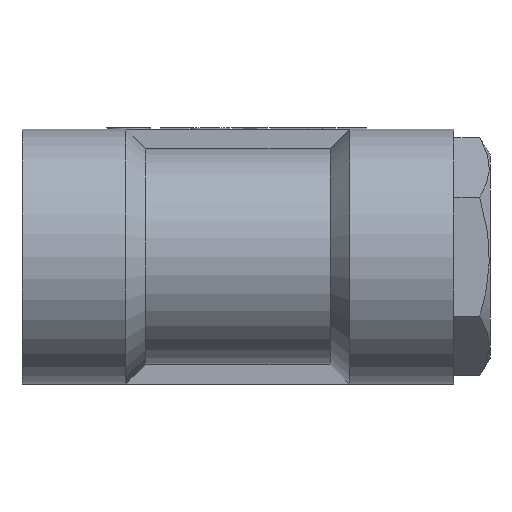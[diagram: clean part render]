
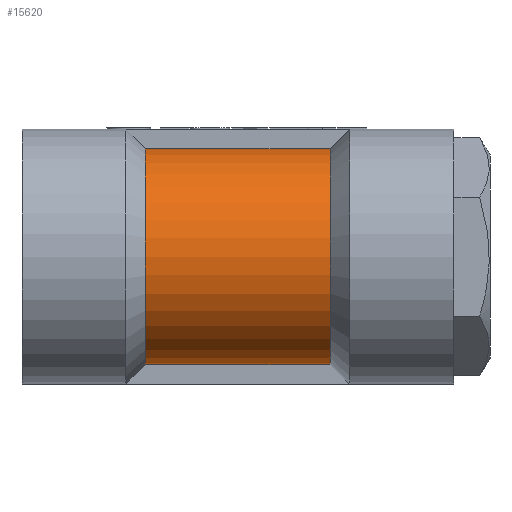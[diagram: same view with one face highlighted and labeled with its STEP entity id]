
A CAD part, front view. The second image highlights one B-rep face of the part: STEP entity #15620.
In plain terms, the highlighted cylindrical face has radius 11 mm (diameter 22 mm), a partial arc.
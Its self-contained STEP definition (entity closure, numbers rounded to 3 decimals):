
#337 = CARTESIAN_POINT ( 'NONE',  ( -26., 0., 0. ) ) ;
#892 = ORIENTED_EDGE ( 'NONE', *, *, #10044, .T. ) ;
#1348 = EDGE_CURVE ( 'NONE', #17302, #3374, #12690, .T. ) ;
#2077 = VECTOR ( 'NONE', #19059, 1000. ) ;
#2328 = CARTESIAN_POINT ( 'NONE',  ( 5.422, 0., 0. ) ) ;
#2959 = ORIENTED_EDGE ( 'NONE', *, *, #16863, .F. ) ;
#3374 = VERTEX_POINT ( 'NONE', #9672 ) ;
#4568 = VECTOR ( 'NONE', #15306, 1000. ) ;
#5521 = CARTESIAN_POINT ( 'NONE',  ( -13.423, 0., -11. ) ) ;
#5681 = DIRECTION ( 'NONE',  ( -1., 0., 0. ) ) ;
#7096 = VERTEX_POINT ( 'NONE', #16218 ) ;
#7192 = CARTESIAN_POINT ( 'NONE',  ( -26., 0., -11. ) ) ;
#9672 = CARTESIAN_POINT ( 'NONE',  ( 5.422, 0., 11. ) ) ;
#10044 = EDGE_CURVE ( 'NONE', #7096, #10413, #12224, .T. ) ;
#10403 = LINE ( 'NONE', #11081, #4568 ) ;
#10413 = VERTEX_POINT ( 'NONE', #5521 ) ;
#11081 = CARTESIAN_POINT ( 'NONE',  ( -26., 0., 11. ) ) ;
#11727 = DIRECTION ( 'NONE',  ( -1., 0., 0. ) ) ;
#11781 = AXIS2_PLACEMENT_3D ( 'NONE', #2328, #5681, #15445 ) ;
#11908 = EDGE_CURVE ( 'NONE', #7096, #3374, #10403, .T. ) ;
#11968 = ORIENTED_EDGE ( 'NONE', *, *, #11908, .F. ) ;
#12224 = CIRCLE ( 'NONE', #16758, 11. ) ;
#12690 = CIRCLE ( 'NONE', #11781, 11. ) ;
#13373 = EDGE_LOOP ( 'NONE', ( #2959, #16128, #11968, #892 ) ) ;
#13814 = CYLINDRICAL_SURFACE ( 'NONE', #16029, 11. ) ;
#15306 = DIRECTION ( 'NONE',  ( 1., 0., 0. ) ) ;
#15445 = DIRECTION ( 'NONE',  ( 0., 0., -1. ) ) ;
#15620 = ADVANCED_FACE ( 'NONE', ( #18114 ), #13814, .T. ) ;
#16029 = AXIS2_PLACEMENT_3D ( 'NONE', #337, #11727, #19912 ) ;
#16128 = ORIENTED_EDGE ( 'NONE', *, *, #1348, .T. ) ;
#16218 = CARTESIAN_POINT ( 'NONE',  ( -13.423, 0., 11. ) ) ;
#16758 = AXIS2_PLACEMENT_3D ( 'NONE', #20476, #20202, #18778 ) ;
#16863 = EDGE_CURVE ( 'NONE', #17302, #10413, #18336, .T. ) ;
#17302 = VERTEX_POINT ( 'NONE', #18685 ) ;
#18114 = FACE_OUTER_BOUND ( 'NONE', #13373, .T. ) ;
#18336 = LINE ( 'NONE', #7192, #2077 ) ;
#18685 = CARTESIAN_POINT ( 'NONE',  ( 5.422, 0., -11. ) ) ;
#18778 = DIRECTION ( 'NONE',  ( 0., 0., 1. ) ) ;
#19059 = DIRECTION ( 'NONE',  ( -1., 0., 0. ) ) ;
#19912 = DIRECTION ( 'NONE',  ( 0., 0., 1. ) ) ;
#20202 = DIRECTION ( 'NONE',  ( 1., 0., 0. ) ) ;
#20476 = CARTESIAN_POINT ( 'NONE',  ( -13.423, 0., 0. ) ) ;
